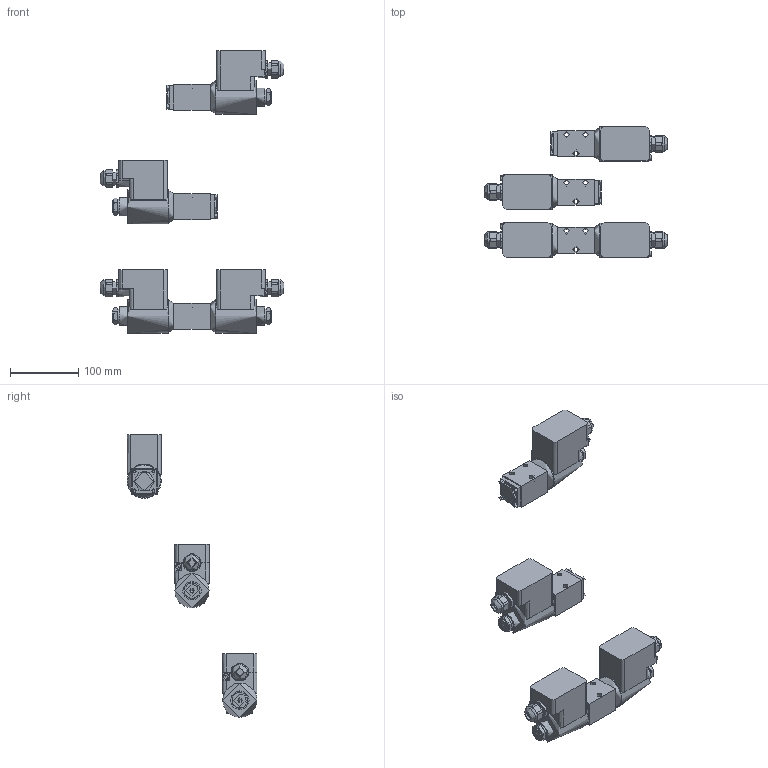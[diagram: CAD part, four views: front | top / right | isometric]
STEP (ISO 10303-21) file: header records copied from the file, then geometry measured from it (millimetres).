
FILE_DESCRIPTION(('Bauteilbeschreibung','HiCAD-Model','HiCAD-STEP-TRANSLATION','Bauteilbeschreibung'),'2;1');
FILE_NAME('K:/STEP_DXF/BEX4_4_-S1788.STP','2006-07-24T10:19:17+00:00',('Konstrukteur'),('Konstrukteur Firma GmbH'),'HiCAD3 V1210 STEP 1.6.2005','HiCAD3 V1210','confidential');
FILE_SCHEMA(('AUTOMOTIVE_DESIGN { 1 2 10303 214 0 1 1 1 }'));
Length unit declared in the file: millimetre
Products named in the file (28): BEX4_4__S1788; BEX4D4__S1788; BE591657; A5E16FAE; A2A59CA0; A2A59CA00; BEX4Z4_A_S1788; D315D079; A5E16FAE0; A2A59CA01; AA75327F; AA75327F0; IN6KTM4; IN6KTM40; IN6KTM41; IN6KTM42; IN6KTM43; BEX4Z4_B_S1788; A4ED3D68; A5E16FAE1; A2A59CA02; AA75327F1; AA75327F2; IN6KTM44; IN6KTM45; IN6KTM46; IN6KTM47; IN6KTM48
Assembly tree (27 placements, depth 6):
  BEX4_4__S1788
    BEX4D4__S1788
      BE591657
        A5E16FAE
        A2A59CA0
        A2A59CA00
    BEX4Z4_A_S1788
      D315D079
        A5E16FAE0
        A2A59CA01
        AA75327F
        AA75327F0
          IN6KTM4
            IN6KTM40
            IN6KTM41
            IN6KTM42
            IN6KTM43
    BEX4Z4_B_S1788
      A4ED3D68
        A5E16FAE1
        A2A59CA02
        AA75327F1
        AA75327F2
          IN6KTM44
            IN6KTM45
            IN6KTM46
            IN6KTM47
            IN6KTM48
Bounding box: 268 x 190 x 413 mm (x, y, z)
Topology: 17 solids, 21 shells, 721 faces, 1778 edges, 1189 vertices
Faces by surface type: plane 436, cylinder 199, cone 82, torus 4
Full cylindrical faces by diameter (mm): 4 x24, 4.5 x8, 5.5 x9, 7 x12, 8.5 x19, 9.5 x9, 11 x4, 12.5 x4, 18 x4, 19 x4, 22 x4, 24 x4, 27 x4, 30 x2, 47.6 x4, 50 x4
Entity records: 39067 total; most frequent: CARTESIAN_POINT 8599, DIRECTION 3506, ORIENTED_EDGE 3096, COLOUR_RGB 2286, PRESENTATION_STYLE_ASSIGNMENT 2286, OVER_RIDING_STYLED_ITEM 2269, CURVE_STYLE 1548, DRAUGHTING_PRE_DEFINED_CURVE_FONT 1548
